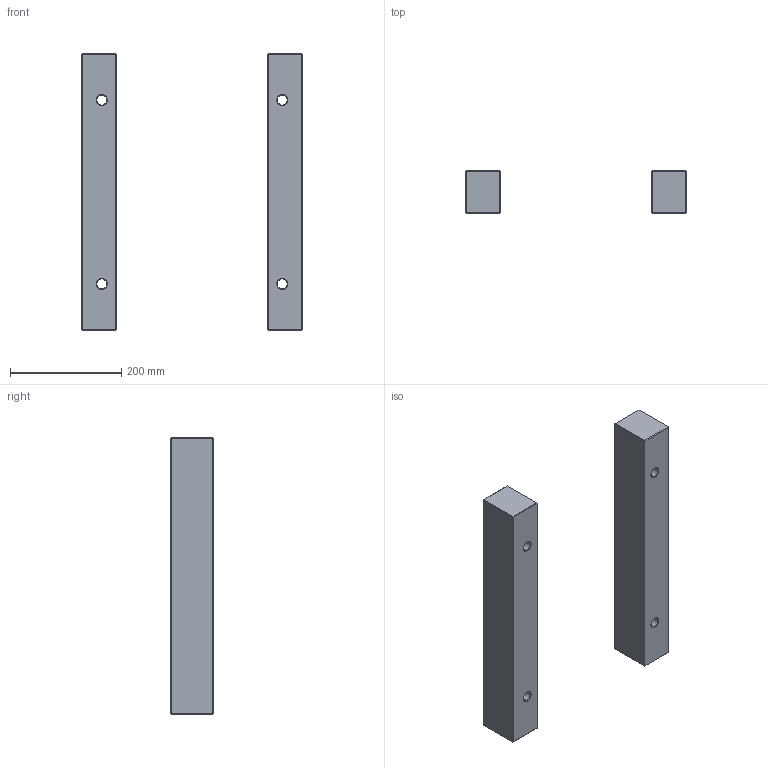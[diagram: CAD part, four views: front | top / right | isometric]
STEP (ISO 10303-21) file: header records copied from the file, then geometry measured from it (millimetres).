
FILE_DESCRIPTION (( 'STEP AP214' ), '1' );
FILE_NAME ('ESP-396X496x76.STEP', '2020-04-14T08:45:20', ( 'August' ), ( '' ), 'SwSTEP 2.0', 'SolidWorks 2018', '' );
FILE_SCHEMA (( 'AUTOMOTIVE_DESIGN' ));
Length unit declared in the file: millimetre
Products named in the file (1): ESP-396X496x76
Bounding box: 396 x 76 x 496 mm (x, y, z)
Volume: 4594185.5 mm3; surface area: 304563.3 mm2
Topology: 2 solids, 2 shells, 76 faces, 152 edges, 80 vertices
Faces by surface type: plane 52, cone 16, cylinder 8
Entity records: 1935 total; most frequent: DIRECTION 338, CARTESIAN_POINT 309, ORIENTED_EDGE 304, EDGE_CURVE 152, VECTOR 120, LINE 120, AXIS2_PLACEMENT_3D 109, EDGE_LOOP 84
